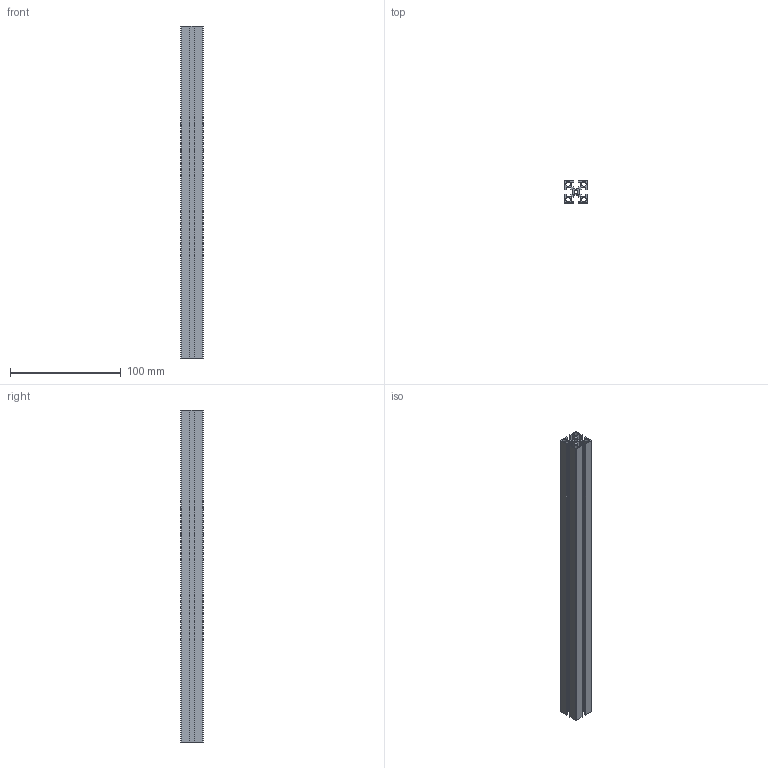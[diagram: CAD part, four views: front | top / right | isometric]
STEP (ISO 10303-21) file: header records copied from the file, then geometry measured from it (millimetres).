
FILE_DESCRIPTION (( 'STEP AP203' ), '1' );
FILE_NAME ('7-CG-2020-4.STEP', '2015-07-07T02:39:27', ( '' ), ( '' ), 'SwSTEP 2.0', 'SolidWorks 2013', '' );
FILE_SCHEMA (( 'CONFIG_CONTROL_DESIGN' ));
Length unit declared in the file: millimetre
Products named in the file (1): 7-CG-2020-4
Bounding box: 20 x 20 x 300 mm (x, y, z)
Volume: 43661.4 mm3; surface area: 69282 mm2
Topology: 1 solids, 1 shells, 84 faces, 246 edges, 164 vertices
Faces by surface type: plane 54, cylinder 30
Entity records: 2887 total; most frequent: CARTESIAN_POINT 495, ORIENTED_EDGE 492, DIRECTION 476, EDGE_CURVE 246, VECTOR 186, LINE 186, VERTEX_POINT 164, AXIS2_PLACEMENT_3D 145
